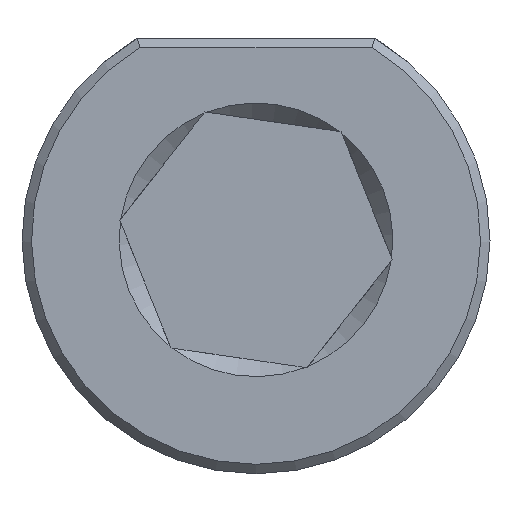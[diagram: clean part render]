
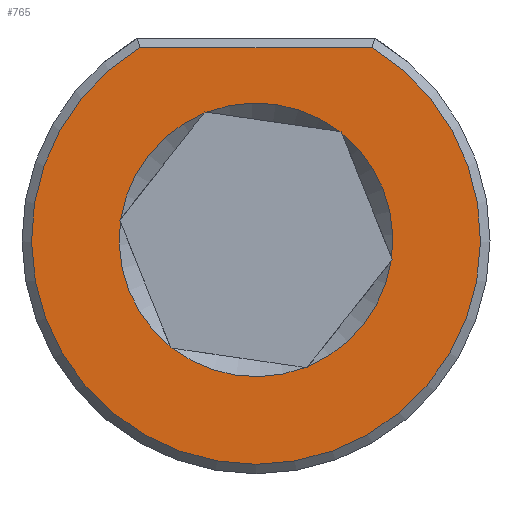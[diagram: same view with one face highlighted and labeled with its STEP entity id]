
A CAD part, front view. The second image highlights one B-rep face of the part: STEP entity #765.
In plain terms, the highlighted planar face has unit normal (0, -1, 0).
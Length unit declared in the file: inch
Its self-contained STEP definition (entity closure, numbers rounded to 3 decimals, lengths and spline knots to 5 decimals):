
#26=FACE_BOUND('',#130,.T.);
#36=PLANE('',#842);
#85=FACE_OUTER_BOUND('',#129,.T.);
#129=EDGE_LOOP('',(#605,#606));
#130=EDGE_LOOP('',(#607,#608,#609,#610,#611,#612,#613,#614,#615,#616,#617,
#618,#619,#620,#621,#622,#623,#624));
#198=LINE('',#1436,#248);
#200=LINE('',#1453,#250);
#201=LINE('',#1455,#251);
#202=LINE('',#1459,#252);
#203=LINE('',#1461,#253);
#204=LINE('',#1465,#254);
#205=LINE('',#1467,#255);
#206=LINE('',#1471,#256);
#207=LINE('',#1473,#257);
#208=LINE('',#1477,#258);
#209=LINE('',#1479,#259);
#210=LINE('',#1483,#260);
#211=LINE('',#1485,#261);
#248=VECTOR('',#973,0.3937);
#250=VECTOR('',#985,0.3937);
#251=VECTOR('',#986,0.3937);
#252=VECTOR('',#989,0.3937);
#253=VECTOR('',#990,0.3937);
#254=VECTOR('',#993,0.3937);
#255=VECTOR('',#994,0.3937);
#256=VECTOR('',#997,0.3937);
#257=VECTOR('',#998,0.3937);
#258=VECTOR('',#1001,0.3937);
#259=VECTOR('',#1002,0.3937);
#260=VECTOR('',#1005,0.3937);
#261=VECTOR('',#1006,0.3937);
#296=CIRCLE('',#839,0.4725);
#298=CIRCLE('',#843,0.288);
#299=CIRCLE('',#844,0.288);
#300=CIRCLE('',#845,0.288);
#301=CIRCLE('',#846,0.288);
#302=CIRCLE('',#847,0.288);
#303=CIRCLE('',#848,0.288);
#355=VERTEX_POINT('',#1434);
#356=VERTEX_POINT('',#1435);
#357=VERTEX_POINT('',#1451);
#358=VERTEX_POINT('',#1452);
#359=VERTEX_POINT('',#1454);
#360=VERTEX_POINT('',#1456);
#361=VERTEX_POINT('',#1458);
#362=VERTEX_POINT('',#1460);
#363=VERTEX_POINT('',#1462);
#364=VERTEX_POINT('',#1464);
#365=VERTEX_POINT('',#1466);
#366=VERTEX_POINT('',#1468);
#367=VERTEX_POINT('',#1470);
#368=VERTEX_POINT('',#1472);
#369=VERTEX_POINT('',#1474);
#370=VERTEX_POINT('',#1476);
#371=VERTEX_POINT('',#1478);
#372=VERTEX_POINT('',#1480);
#373=VERTEX_POINT('',#1482);
#374=VERTEX_POINT('',#1484);
#446=EDGE_CURVE('',#355,#356,#198,.T.);
#450=EDGE_CURVE('',#356,#355,#296,.T.);
#452=EDGE_CURVE('',#357,#358,#200,.T.);
#453=EDGE_CURVE('',#358,#359,#201,.T.);
#454=EDGE_CURVE('',#360,#359,#298,.T.);
#455=EDGE_CURVE('',#360,#361,#202,.T.);
#456=EDGE_CURVE('',#361,#362,#203,.T.);
#457=EDGE_CURVE('',#363,#362,#299,.T.);
#458=EDGE_CURVE('',#363,#364,#204,.T.);
#459=EDGE_CURVE('',#364,#365,#205,.T.);
#460=EDGE_CURVE('',#366,#365,#300,.T.);
#461=EDGE_CURVE('',#366,#367,#206,.T.);
#462=EDGE_CURVE('',#367,#368,#207,.T.);
#463=EDGE_CURVE('',#369,#368,#301,.T.);
#464=EDGE_CURVE('',#369,#370,#208,.T.);
#465=EDGE_CURVE('',#370,#371,#209,.T.);
#466=EDGE_CURVE('',#372,#371,#302,.T.);
#467=EDGE_CURVE('',#372,#373,#210,.T.);
#468=EDGE_CURVE('',#373,#374,#211,.T.);
#469=EDGE_CURVE('',#357,#374,#303,.T.);
#605=ORIENTED_EDGE('',*,*,#446,.F.);
#606=ORIENTED_EDGE('',*,*,#450,.F.);
#607=ORIENTED_EDGE('',*,*,#452,.T.);
#608=ORIENTED_EDGE('',*,*,#453,.T.);
#609=ORIENTED_EDGE('',*,*,#454,.F.);
#610=ORIENTED_EDGE('',*,*,#455,.T.);
#611=ORIENTED_EDGE('',*,*,#456,.T.);
#612=ORIENTED_EDGE('',*,*,#457,.F.);
#613=ORIENTED_EDGE('',*,*,#458,.T.);
#614=ORIENTED_EDGE('',*,*,#459,.T.);
#615=ORIENTED_EDGE('',*,*,#460,.F.);
#616=ORIENTED_EDGE('',*,*,#461,.T.);
#617=ORIENTED_EDGE('',*,*,#462,.T.);
#618=ORIENTED_EDGE('',*,*,#463,.F.);
#619=ORIENTED_EDGE('',*,*,#464,.T.);
#620=ORIENTED_EDGE('',*,*,#465,.T.);
#621=ORIENTED_EDGE('',*,*,#466,.F.);
#622=ORIENTED_EDGE('',*,*,#467,.T.);
#623=ORIENTED_EDGE('',*,*,#468,.T.);
#624=ORIENTED_EDGE('',*,*,#469,.F.);
#765=ADVANCED_FACE('',(#85,#26),#36,.T.);
#839=AXIS2_PLACEMENT_3D('',#1447,#977,#978);
#842=AXIS2_PLACEMENT_3D('',#1450,#983,#984);
#843=AXIS2_PLACEMENT_3D('',#1457,#987,#988);
#844=AXIS2_PLACEMENT_3D('',#1463,#991,#992);
#845=AXIS2_PLACEMENT_3D('',#1469,#995,#996);
#846=AXIS2_PLACEMENT_3D('',#1475,#999,#1000);
#847=AXIS2_PLACEMENT_3D('',#1481,#1003,#1004);
#848=AXIS2_PLACEMENT_3D('',#1486,#1007,#1008);
#973=DIRECTION('',(1.,0.,0.));
#977=DIRECTION('center_axis',(0.,1.,0.));
#978=DIRECTION('ref_axis',(0.,0.,-1.));
#983=DIRECTION('center_axis',(0.,-1.,0.));
#984=DIRECTION('ref_axis',(0.,0.,-1.));
#985=DIRECTION('',(0.37,0.,-0.929));
#986=DIRECTION('',(-0.619,0.,-0.785));
#987=DIRECTION('center_axis',(0.,-1.,0.));
#988=DIRECTION('ref_axis',(0.,0.,1.));
#989=DIRECTION('',(-0.619,0.,-0.785));
#990=DIRECTION('',(-0.99,0.,0.144));
#991=DIRECTION('center_axis',(0.,-1.,0.));
#992=DIRECTION('ref_axis',(0.,0.,1.));
#993=DIRECTION('',(-0.99,0.,0.144));
#994=DIRECTION('',(-0.37,0.,0.929));
#995=DIRECTION('center_axis',(0.,-1.,0.));
#996=DIRECTION('ref_axis',(0.,0.,1.));
#997=DIRECTION('',(-0.37,0.,0.929));
#998=DIRECTION('',(0.619,0.,0.785));
#999=DIRECTION('center_axis',(0.,-1.,0.));
#1000=DIRECTION('ref_axis',(0.,0.,1.));
#1001=DIRECTION('',(0.619,0.,0.785));
#1002=DIRECTION('',(0.99,0.,-0.144));
#1003=DIRECTION('center_axis',(0.,-1.,0.));
#1004=DIRECTION('ref_axis',(0.,0.,1.));
#1005=DIRECTION('',(0.99,0.,-0.144));
#1006=DIRECTION('',(0.37,0.,-0.929));
#1007=DIRECTION('center_axis',(0.,-1.,0.));
#1008=DIRECTION('ref_axis',(0.,0.,1.));
#1434=CARTESIAN_POINT('',(-0.2442,0.,0.4045));
#1435=CARTESIAN_POINT('',(0.2442,0.,0.4045));
#1436=CARTESIAN_POINT('',(0.12486,0.,0.4045));
#1447=CARTESIAN_POINT('Origin',(0.,0.,0.));
#1450=CARTESIAN_POINT('Origin',(0.,0.,-0.248));
#1451=CARTESIAN_POINT('',(0.28546,0.,-0.03818));
#1452=CARTESIAN_POINT('',(0.28683,0.,-0.04162));
#1453=CARTESIAN_POINT('',(0.24897,0.,0.05331));
#1454=CARTESIAN_POINT('',(0.28454,0.,-0.04452));
#1455=CARTESIAN_POINT('',(0.18167,0.,-0.17498));
#1456=CARTESIAN_POINT('',(0.10966,0.,-0.26631));
#1457=CARTESIAN_POINT('Origin',(0.,0.,0.));
#1458=CARTESIAN_POINT('',(0.10737,0.,-0.26921));
#1459=CARTESIAN_POINT('',(0.18167,0.,-0.17498));
#1460=CARTESIAN_POINT('',(0.10372,0.,-0.26868));
#1461=CARTESIAN_POINT('',(0.05329,0.,-0.26136));
#1462=CARTESIAN_POINT('',(-0.1758,0.,-0.22812));
#1463=CARTESIAN_POINT('Origin',(0.,0.,0.));
#1464=CARTESIAN_POINT('',(-0.17945,0.,-0.22759));
#1465=CARTESIAN_POINT('',(0.05329,0.,-0.26136));
#1466=CARTESIAN_POINT('',(-0.18082,0.,-0.22416));
#1467=CARTESIAN_POINT('',(-0.16363,0.,-0.26727));
#1468=CARTESIAN_POINT('',(-0.28546,0.,0.03818));
#1469=CARTESIAN_POINT('Origin',(0.,0.,0.));
#1470=CARTESIAN_POINT('',(-0.28683,0.,0.04162));
#1471=CARTESIAN_POINT('',(-0.16363,0.,-0.26727));
#1472=CARTESIAN_POINT('',(-0.28454,0.,0.04452));
#1473=CARTESIAN_POINT('',(-0.30225,0.,0.02205));
#1474=CARTESIAN_POINT('',(-0.10966,0.,0.26631));
#1475=CARTESIAN_POINT('Origin',(0.,0.,0.));
#1476=CARTESIAN_POINT('',(-0.10737,0.,0.26921));
#1477=CARTESIAN_POINT('',(-0.30225,0.,0.02205));
#1478=CARTESIAN_POINT('',(-0.10372,0.,0.26868));
#1479=CARTESIAN_POINT('',(-0.01805,0.,0.25625));
#1480=CARTESIAN_POINT('',(0.1758,0.,0.22812));
#1481=CARTESIAN_POINT('Origin',(0.,0.,0.));
#1482=CARTESIAN_POINT('',(0.17945,0.,0.22759));
#1483=CARTESIAN_POINT('',(-0.01805,0.,0.25625));
#1484=CARTESIAN_POINT('',(0.18082,0.,0.22416));
#1485=CARTESIAN_POINT('',(0.24897,0.,0.05331));
#1486=CARTESIAN_POINT('Origin',(0.,0.,0.));
